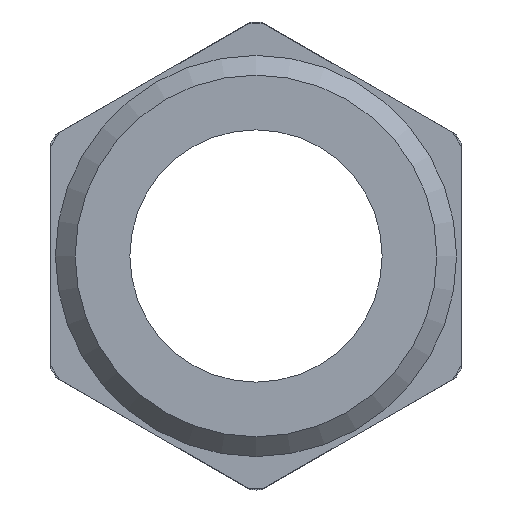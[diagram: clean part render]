
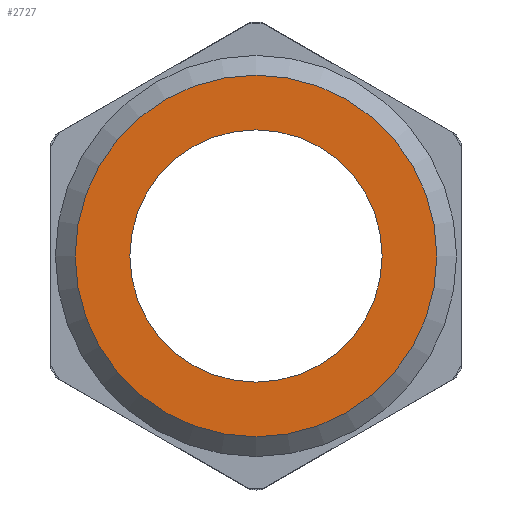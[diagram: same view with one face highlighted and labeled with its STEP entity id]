
A CAD part, left-side view. The second image highlights one B-rep face of the part: STEP entity #2727.
In plain terms, the highlighted planar face has unit normal (-1, 0, 0).
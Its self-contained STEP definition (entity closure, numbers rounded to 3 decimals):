
#2691=CARTESIAN_POINT('',(-40.,0.,0.));
#2692=DIRECTION('',(1.,0.,0.));
#2693=DIRECTION('',(0.,0.,-1.));
#2694=AXIS2_PLACEMENT_3D('',#2691,#2692,#2693);
#2695=PLANE('',#2694);
#2696=CARTESIAN_POINT('',(-40.,-0.,-8.3));
#2697=VERTEX_POINT('',#2696);
#2698=CARTESIAN_POINT('',(-40.,0.,0.));
#2699=DIRECTION('',(1.,0.,0.));
#2700=DIRECTION('',(0.,0.,-1.));
#2701=AXIS2_PLACEMENT_3D('',#2698,#2699,#2700);
#2702=CIRCLE('',#2701,8.3);
#2703=EDGE_CURVE('',#2697,#2697,#2702,.T.);
#2704=ORIENTED_EDGE('',*,*,#2703,.T.);
#2705=EDGE_LOOP('',(#2704));
#2706=FACE_BOUND('',#2705,.T.);
#2707=CARTESIAN_POINT('',(-40.,-0.,11.9));
#2708=VERTEX_POINT('',#2707);
#2709=CARTESIAN_POINT('',(-40.,0.,-11.9));
#2710=VERTEX_POINT('',#2709);
#2711=CARTESIAN_POINT('',(-40.,0.,0.));
#2712=DIRECTION('',(-1.,0.,0.));
#2713=DIRECTION('',(0.,0.,1.));
#2714=AXIS2_PLACEMENT_3D('',#2711,#2712,#2713);
#2715=CIRCLE('',#2714,11.9);
#2716=EDGE_CURVE('',#2708,#2710,#2715,.T.);
#2717=ORIENTED_EDGE('',*,*,#2716,.T.);
#2718=CARTESIAN_POINT('',(-40.,0.,0.));
#2719=DIRECTION('',(-1.,0.,0.));
#2720=DIRECTION('',(0.,0.,1.));
#2721=AXIS2_PLACEMENT_3D('',#2718,#2719,#2720);
#2722=CIRCLE('',#2721,11.9);
#2723=EDGE_CURVE('',#2710,#2708,#2722,.T.);
#2724=ORIENTED_EDGE('',*,*,#2723,.T.);
#2725=EDGE_LOOP('',(#2717,#2724));
#2726=FACE_BOUND('',#2725,.T.);
#2727=ADVANCED_FACE('',(#2706,#2726),#2695,.F.);
